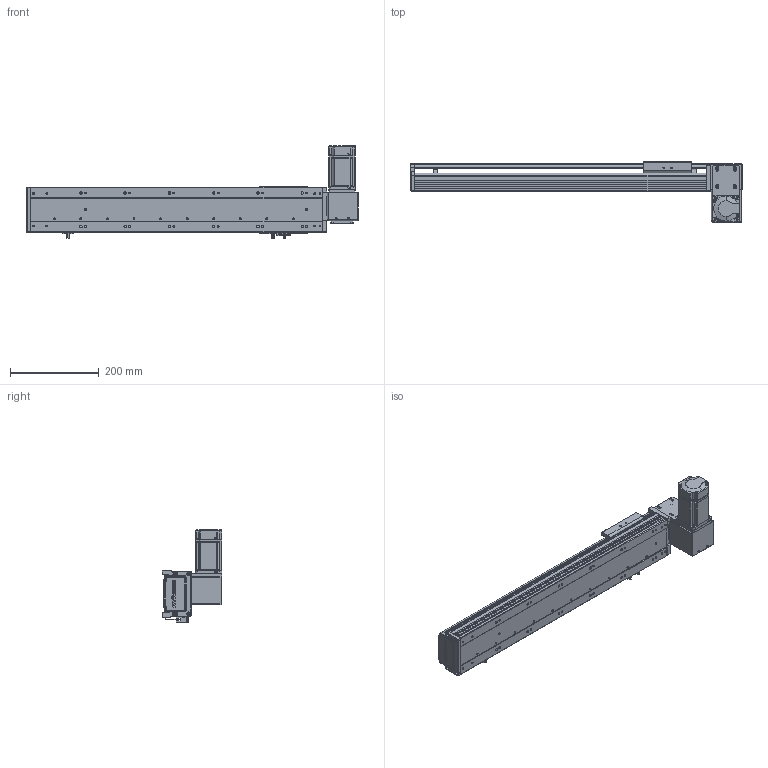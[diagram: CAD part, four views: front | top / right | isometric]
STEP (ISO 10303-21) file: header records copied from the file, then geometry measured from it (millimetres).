
FILE_DESCRIPTION (( 'STEP AP203' ), '1' );
FILE_NAME ('RY100-T-300-DR.SLDASM_450.step', '2024-04-25T03:22:07', ( '盈信电脑' ), ( '东莞市道滘镇水果街19号' ), 'SwSTEP 2.0', 'SolidWorks 2016', '' );
FILE_SCHEMA (( 'CONFIG_CONTROL_DESIGN' ));
Length unit declared in the file: millimetre
Products named in the file (16): 侂狟200W萇儂; RY100-T翋肮祭謫裔啣; RY100-T-300-RK倰第菁釱_450; RY100俋离覜茼え; RY100-T翋肮祭謫裔啣2; RY100-T肮祭謫翋盓傅釱; 覜茼ん672; RY100-T左右折电机安装板; RY100-T粣創揤踡裔; RY100-T肮祭謫臏賑輸; RY100-T-300-DR.SLDASM_450; 1; RY100綴裔啣; RY100-T-300-RK倰第奻裔_450; 滅袉蝶18-10; RY80-T肮祭謫狟殏俋欶
Assembly tree (19 placements, depth 3):
  RY100-T-300-DR.SLDASM_450
    RY100-T-300-RK倰第菁釱_450
    RY100-T-300-RK倰第奻裔_450
    RY100-T肮祭謫臏賑輸
    RY100綴裔啣
    覜茼ん672  x3
    RY100俋离覜茼え
    RY100-T肮祭謫翋盓傅釱
    RY100-T左右折电机安装板
    侂狟200W萇儂
      1
    RY100-T粣創揤踡裔
    滅袉蝶18-10  x2
    RY100-T翋肮祭謫裔啣2  x2
    RY100-T翋肮祭謫裔啣
    RY80-T肮祭謫狟殏俋欶
Bounding box: 750 x 135.5 x 209.7 mm (x, y, z)
Volume: 1763371.2 mm3; surface area: 703286 mm2
Topology: 18 solids, 18 shells, 2179 faces, 6038 edges, 3920 vertices
Faces by surface type: plane 1209, cylinder 763, cone 129, bspline 78
Entity records: 69317 total; most frequent: CARTESIAN_POINT 16590, ORIENTED_EDGE 10812, DIRECTION 10298, EDGE_CURVE 5406, VERTEX_POINT 3556, LINE 3544, VECTOR 3544, AXIS2_PLACEMENT_3D 3377
